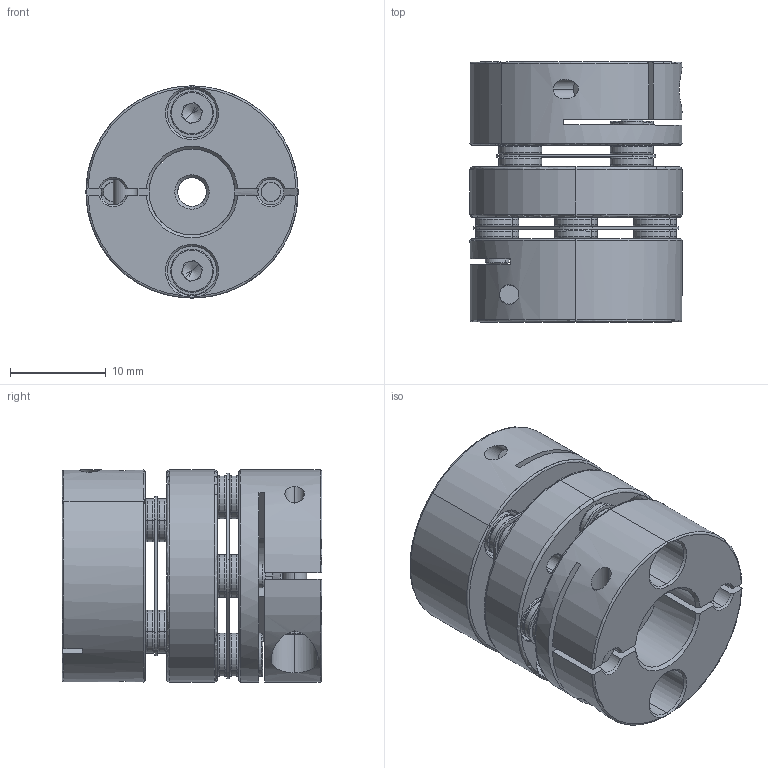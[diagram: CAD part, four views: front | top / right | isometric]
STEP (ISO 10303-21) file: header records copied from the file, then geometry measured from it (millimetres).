
FILE_DESCRIPTION (( 'STEP AP203' ), '1' );
FILE_NAME ('SDWB-22C-3X9_203.STEP', '2013-01-08T04:54:31', ( '' ), ( '' ), 'SwSTEP 2.0', 'SolidWorks 2012', '' );
FILE_SCHEMA (( 'CONFIG_CONTROL_DESIGN' ));
Length unit declared in the file: millimetre
Products named in the file (1): SDWB-22C-3X9_203
Bounding box: 22.2 x 27.2 x 22.2 mm (x, y, z)
Volume: 6682.9 mm3; surface area: 7656.7 mm2
Topology: 1 solids, 9 shells, 800 faces, 1894 edges, 1128 vertices
Faces by surface type: cylinder 242, plane 237, cone 175, torus 138, bspline 8
Entity records: 23615 total; most frequent: CARTESIAN_POINT 4585, DIRECTION 4352, ORIENTED_EDGE 3748, EDGE_CURVE 1874, AXIS2_PLACEMENT_3D 1803, VERTEX_POINT 1128, CIRCLE 1010, EDGE_LOOP 904
